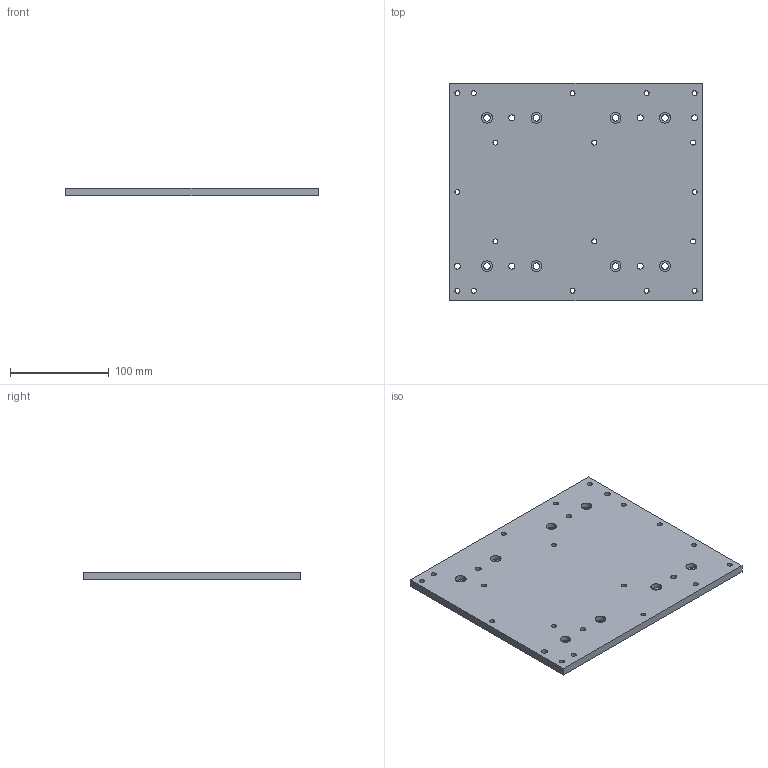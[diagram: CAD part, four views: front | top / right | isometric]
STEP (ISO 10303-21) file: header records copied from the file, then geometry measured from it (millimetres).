
FILE_DESCRIPTION (( 'STEP AP203' ), '1' );
FILE_NAME ('_-_PS4.step', '2005-09-07T09:31:11', ( ' ' ), ( ' ' ), 'SwSTEP 2.0', 'SolidWorks 2005187', '' );
FILE_SCHEMA (( 'CONFIG_CONTROL_DESIGN' ));
Length unit declared in the file: millimetre
Products named in the file (2): _-_PS4; TE0545 Schlittenplatte PS4_Standard
Assembly tree (1 placements, depth 2):
  _-_PS4
    TE0545 Schlittenplatte PS4_Standard
Bounding box: 255 x 220 x 8 mm (x, y, z)
Volume: 439993 mm3; surface area: 123253.1 mm2
Topology: 1 solids, 1 shells, 94 faces, 252 edges, 168 vertices
Faces by surface type: cylinder 80, plane 14
Entity records: 3360 total; most frequent: DIRECTION 608, CARTESIAN_POINT 518, ORIENTED_EDGE 504, AXIS2_PLACEMENT_3D 258, EDGE_CURVE 252, VERTEX_POINT 168, EDGE_LOOP 166, CIRCLE 160
